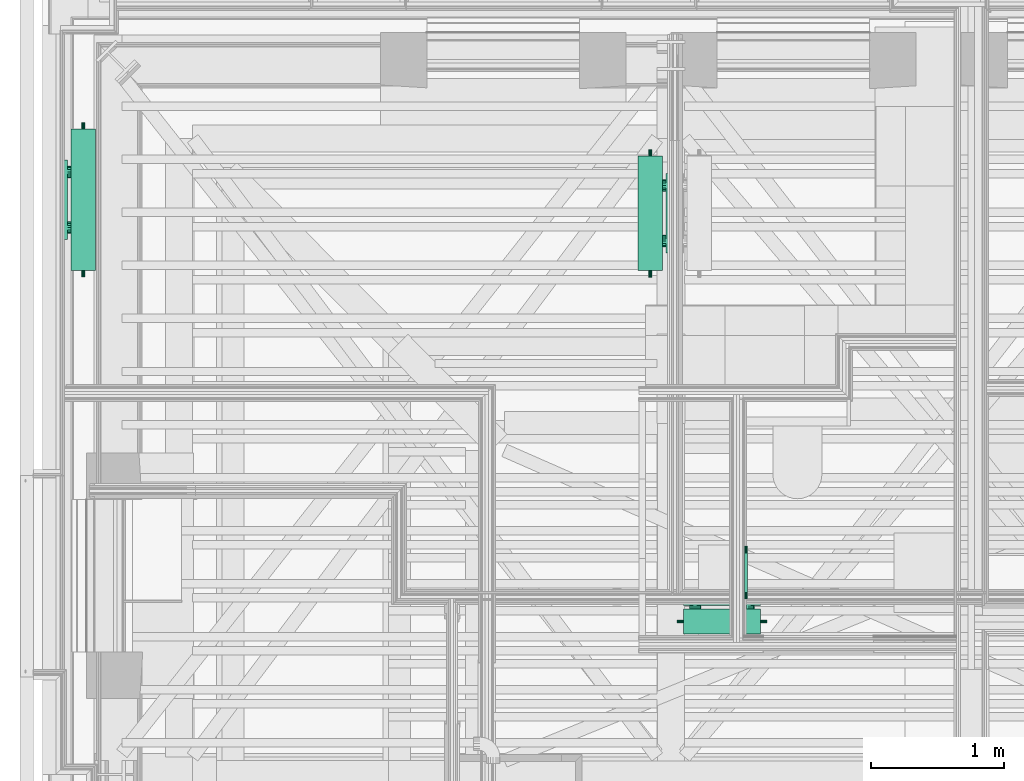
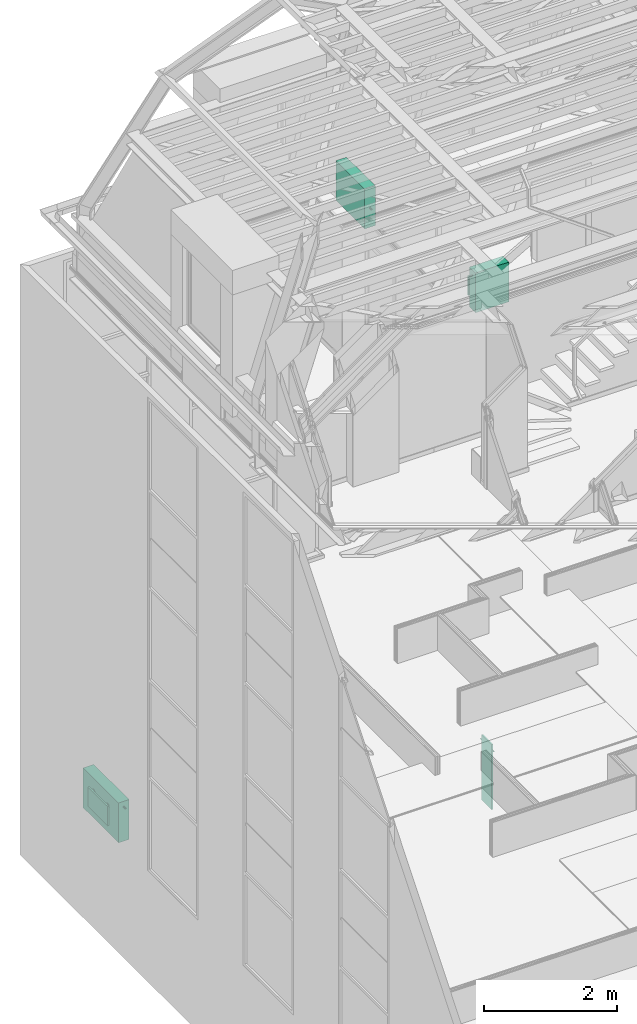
# One storey, part 162 of 183: 4 flow terminals.
"""IFC2X3 building model written with IfcOpenShell, lengths in metres."""

from ifc_helpers import new_model, entity, si_unit, converted_unit, derived_unit, money_unit, direction, frame, origin_with_axes, place, context, subcontext, project, spatial, open_shell, surface_model, material, type_object, element, save


model = new_model("IFC2X3")

# Units and contexts
model_context = context("Model", 3, precision=1e-05, world=origin_with_axes(), true_north=direction((0.0, 1.0)))
body_context = subcontext(model_context, "Body", "Model", "MODEL_VIEW", scale=1.0)
ifc_project = project(units=[si_unit("LENGTHUNIT", "METRE"), si_unit("AREAUNIT", "SQUARE_METRE"), si_unit("VOLUMEUNIT", "CUBIC_METRE"), si_unit("ABSORBEDDOSEUNIT", "GRAY"), si_unit("AMOUNTOFSUBSTANCEUNIT", "MOLE"), si_unit("DOSEEQUIVALENTUNIT", "SIEVERT"), si_unit("ELECTRICCAPACITANCEUNIT", "FARAD"), si_unit("ELECTRICCHARGEUNIT", "COULOMB"), si_unit("ELECTRICCONDUCTANCEUNIT", "SIEMENS"), si_unit("ELECTRICCURRENTUNIT", "AMPERE"), si_unit("ELECTRICRESISTANCEUNIT", "OHM"), si_unit("ELECTRICVOLTAGEUNIT", "VOLT"), si_unit("ENERGYUNIT", "JOULE"), si_unit("FORCEUNIT", "NEWTON"), si_unit("FREQUENCYUNIT", "HERTZ"), si_unit("ILLUMINANCEUNIT", "LUX"), si_unit("INDUCTANCEUNIT", "HENRY"), si_unit("LUMINOUSFLUXUNIT", "LUMEN"), si_unit("LUMINOUSINTENSITYUNIT", "CANDELA"), si_unit("MAGNETICFLUXDENSITYUNIT", "TESLA"), si_unit("MAGNETICFLUXUNIT", "WEBER"), si_unit("MASSUNIT", "GRAM"), converted_unit("PLANEANGLEUNIT", "degree", entity("IfcReal", 0.0174532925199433), si_unit("PLANEANGLEUNIT", "RADIAN"), dimensions=[0, 0, 0, 0, 0, 0, 0]), si_unit("POWERUNIT", "WATT"), si_unit("PRESSUREUNIT", "PASCAL"), si_unit("RADIOACTIVITYUNIT", "BECQUEREL"), si_unit("SOLIDANGLEUNIT", "STERADIAN"), si_unit("THERMODYNAMICTEMPERATUREUNIT", "KELVIN"), si_unit("TIMEUNIT", "SECOND"), derived_unit("ACCELERATIONUNIT", [(si_unit("LENGTHUNIT", "METRE"), 1), (si_unit("TIMEUNIT", "SECOND"), -2)]), derived_unit("ANGULARVELOCITYUNIT", [(converted_unit("PLANEANGLEUNIT", "degree", entity("IfcReal", 0.0174532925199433), si_unit("PLANEANGLEUNIT", "RADIAN"), dimensions=[0, 0, 0, 0, 0, 0, 0]), 1), (si_unit("TIMEUNIT", "SECOND"), -1)]), derived_unit("CURVATUREUNIT", [(converted_unit("PLANEANGLEUNIT", "degree", entity("IfcReal", 0.0174532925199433), si_unit("PLANEANGLEUNIT", "RADIAN"), dimensions=[0, 0, 0, 0, 0, 0, 0]), 1), (si_unit("LENGTHUNIT", "METRE"), -1)]), derived_unit("DYNAMICVISCOSITYUNIT", [(si_unit("PRESSUREUNIT", "PASCAL"), 1), (si_unit("TIMEUNIT", "SECOND"), 1)]), derived_unit("HEATFLUXDENSITYUNIT", [(si_unit("POWERUNIT", "WATT"), 1), (si_unit("LENGTHUNIT", "METRE"), -2)]), derived_unit("HEATINGVALUEUNIT", [(si_unit("ENERGYUNIT", "JOULE"), 1), (si_unit("MASSUNIT", "GRAM"), -1)]), derived_unit("INTEGERCOUNTRATEUNIT", [(si_unit("TIMEUNIT", "SECOND"), -1)]), derived_unit("IONCONCENTRATIONUNIT", [(si_unit("MASSUNIT", "GRAM"), 1), (si_unit("VOLUMEUNIT", "CUBIC_METRE"), -1)]), derived_unit("ISOTHERMALMOISTURECAPACITYUNIT", [(si_unit("VOLUMEUNIT", "CUBIC_METRE"), 1), (si_unit("MASSUNIT", "GRAM"), -1)]), derived_unit("KINEMATICVISCOSITYUNIT", [(si_unit("AREAUNIT", "SQUARE_METRE"), 1), (si_unit("TIMEUNIT", "SECOND"), -1)]), derived_unit("LINEARFORCEUNIT", [(si_unit("FORCEUNIT", "NEWTON"), 1), (si_unit("LENGTHUNIT", "METRE"), -1)]), derived_unit("LINEARMOMENTUNIT", [(si_unit("FORCEUNIT", "NEWTON"), 1), (si_unit("LENGTHUNIT", "METRE"), -1)]), derived_unit("LINEARSTIFFNESSUNIT", [(si_unit("FORCEUNIT", "NEWTON"), 1), (si_unit("LENGTHUNIT", "METRE"), -1)]), derived_unit("LINEARVELOCITYUNIT", [(si_unit("LENGTHUNIT", "METRE"), 1), (si_unit("TIMEUNIT", "SECOND"), -1)]), derived_unit("LUMINOUSINTENSITYDISTRIBUTIONUNIT", [(si_unit("LUMINOUSINTENSITYUNIT", "CANDELA"), 1), (si_unit("LUMINOUSFLUXUNIT", "LUMEN"), -1)]), derived_unit("MASSDENSITYUNIT", [(si_unit("MASSUNIT", "GRAM"), 1), (si_unit("VOLUMEUNIT", "CUBIC_METRE"), -1)]), derived_unit("MASSFLOWRATEUNIT", [(si_unit("MASSUNIT", "GRAM"), 1), (si_unit("TIMEUNIT", "SECOND"), -1)]), derived_unit("MASSPERLENGTHUNIT", [(si_unit("MASSUNIT", "GRAM"), 1), (si_unit("LENGTHUNIT", "METRE"), -1)]), derived_unit("MODULUSOFELASTICITYUNIT", [(si_unit("FORCEUNIT", "NEWTON"), 1), (si_unit("AREAUNIT", "SQUARE_METRE"), -1)]), derived_unit("MODULUSOFLINEARSUBGRADEREACTIONUNIT", [(si_unit("FORCEUNIT", "NEWTON"), 1), (si_unit("LENGTHUNIT", "METRE"), -2)]), derived_unit("MODULUSOFROTATIONALSUBGRADEREACTIONUNIT", [(si_unit("FORCEUNIT", "NEWTON"), 1), (si_unit("LENGTHUNIT", "METRE"), 1)]), derived_unit("MODULUSOFSUBGRADEREACTIONUNIT", [(si_unit("FORCEUNIT", "NEWTON"), 1), (si_unit("VOLUMEUNIT", "CUBIC_METRE"), -1)]), derived_unit("MOISTUREDIFFUSIVITYUNIT", [(si_unit("VOLUMEUNIT", "CUBIC_METRE"), 1), (si_unit("TIMEUNIT", "SECOND"), -1)]), derived_unit("MOLECULARWEIGHTUNIT", [(si_unit("MASSUNIT", "GRAM"), 1), (si_unit("AMOUNTOFSUBSTANCEUNIT", "MOLE"), -1)]), derived_unit("PLANARFORCEUNIT", [(si_unit("FORCEUNIT", "NEWTON"), 1), (si_unit("LENGTHUNIT", "METRE"), -2)]), derived_unit("ROTATIONALFREQUENCYUNIT", [(si_unit("TIMEUNIT", "SECOND"), -1)]), derived_unit("ROTATIONALMASSUNIT", [(si_unit("MASSUNIT", "GRAM"), 1), (si_unit("LENGTHUNIT", "METRE"), 2)]), derived_unit("ROTATIONALSTIFFNESSUNIT", [(si_unit("FORCEUNIT", "NEWTON"), 1), (si_unit("LENGTHUNIT", "METRE"), 1), (converted_unit("PLANEANGLEUNIT", "degree", entity("IfcReal", 0.0174532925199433), si_unit("PLANEANGLEUNIT", "RADIAN"), dimensions=[0, 0, 0, 0, 0, 0, 0]), -1)]), derived_unit("SECTIONAREAINTEGRALUNIT", [(si_unit("LENGTHUNIT", "METRE"), 5)]), derived_unit("SECTIONMODULUSUNIT", [(si_unit("LENGTHUNIT", "METRE"), 3)]), derived_unit("SHEARMODULUSUNIT", [(si_unit("FORCEUNIT", "NEWTON"), 1), (si_unit("AREAUNIT", "SQUARE_METRE"), -1)]), derived_unit("SOUNDPOWERUNIT", [(si_unit("ENERGYUNIT", "JOULE"), 1), (si_unit("TIMEUNIT", "SECOND"), -1)]), derived_unit("SPECIFICHEATCAPACITYUNIT", [(si_unit("FORCEUNIT", "NEWTON"), 1), (si_unit("MASSUNIT", "GRAM"), -1), (si_unit("THERMODYNAMICTEMPERATUREUNIT", "KELVIN"), -1)]), derived_unit("TEMPERATUREGRADIENTUNIT", [(si_unit("THERMODYNAMICTEMPERATUREUNIT", "KELVIN"), 1), (si_unit("LENGTHUNIT", "METRE"), -1)]), derived_unit("THERMALADMITTANCEUNIT", [(si_unit("POWERUNIT", "WATT"), 1), (si_unit("AREAUNIT", "SQUARE_METRE"), -1), (si_unit("THERMODYNAMICTEMPERATUREUNIT", "KELVIN"), -1)]), derived_unit("THERMALCONDUCTANCEUNIT", [(si_unit("POWERUNIT", "WATT"), 1), (si_unit("LENGTHUNIT", "METRE"), -1), (si_unit("THERMODYNAMICTEMPERATUREUNIT", "KELVIN"), -1)]), derived_unit("THERMALEXPANSIONCOEFFICIENTUNIT", [(si_unit("THERMODYNAMICTEMPERATUREUNIT", "KELVIN"), -1)]), derived_unit("THERMALRESISTANCEUNIT", [(si_unit("AREAUNIT", "SQUARE_METRE"), 1), (si_unit("POWERUNIT", "WATT"), -1)]), derived_unit("THERMALTRANSMITTANCEUNIT", [(si_unit("POWERUNIT", "WATT"), 1), (si_unit("AREAUNIT", "SQUARE_METRE"), -1), (si_unit("THERMODYNAMICTEMPERATUREUNIT", "KELVIN"), -1)]), derived_unit("TORQUEUNIT", [(si_unit("FORCEUNIT", "NEWTON"), 1), (si_unit("LENGTHUNIT", "METRE"), 1)]), derived_unit("VAPORPERMEABILITYUNIT", [(si_unit("MASSUNIT", "GRAM"), 1), (si_unit("TIMEUNIT", "SECOND"), -1)]), derived_unit("VOLUMETRICFLOWRATEUNIT", [(si_unit("VOLUMEUNIT", "CUBIC_METRE"), 1), (si_unit("TIMEUNIT", "SECOND"), -1)]), derived_unit("WARPINGCONSTANTUNIT", [(si_unit("LENGTHUNIT", "METRE"), 6)]), derived_unit("WARPINGMOMENTUNIT", [(si_unit("FORCEUNIT", "NEWTON"), 1), (si_unit("LENGTHUNIT", "METRE"), 2)]), money_unit("GBP")], contexts=[model_context])

# Site, building, storey, space
site_placement = place(None, origin_with_axes())
site = spatial("IfcSite", under=ifc_project, at=site_placement, Name="Site", CompositionType="ELEMENT")
building_placement = place(site_placement, origin_with_axes())
building = spatial("IfcBuilding", under=site, at=building_placement, Name="Building01", CompositionType="ELEMENT")
storey_placement = place(building_placement, frame((0.0, 0.0, 5.15), z_axis=(0.0, 0.0, 1.0), x_axis=(1.0, 0.0, 0.0)))
storey = spatial("IfcBuildingStorey", under=building, at=storey_placement, Name="1F", CompositionType="ELEMENT", Elevation=5.15)
space_1_placement = place(storey_placement, frame((0.318, 11.72567, 0.017975), z_axis=(0.0, 0.0, 1.0), x_axis=(1.0, 0.0, 0.0)))
space_1 = spatial("IfcSpace", under=storey, at=space_1_placement, Name="k/d/l", CompositionType="ELEMENT", InteriorOrExteriorSpace="NOTDEFINED")

# Flow terminal
ifc_material = material(Name="M_BSUK_Ventilation")
space_heater_type_1 = type_object("IfcSpaceHeaterType", Name="M-BmvRadiatorpanel-Panel", PredefinedType="NOTDEFINED")
flow_terminal_1_placement = place(storey_placement, frame((0.47825, 13.670846, 0.665), z_axis=(0.0, 0.0, 1.0), x_axis=(0.0, 1.0, 0.0)))
element("IfcFlowTerminal", 1, at=flow_terminal_1_placement, inside=space_1, type_object=space_heater_type_1, material=ifc_material, Name="M-BmvRadiatorpanel-Panel", ObjectType="M-BmvRadiatorpanel-Panel", context=body_context, shape_type="SurfaceModel", body=[
    surface_model("IfcShellBasedSurfaceModel", [(-1.069, -0.0925, 0.365), (-1.069, 0.0925, 0.365), (0.0, 0.0925, 0.365), (0.0, -0.0925, 0.365), (-1.069, -0.0925, -0.365), (-1.069, 0.0925, -0.365), (0.0, -0.0925, -0.365), (0.0, 0.0925, -0.365), (-0.2345, 0.12025, 0.175), (-0.8345, 0.12025, 0.175), (-0.8345, 0.14525, 0.175), (-0.2345, 0.14525, 0.175), (-0.8345, 0.14525, -0.175), (-0.2345, 0.14525, -0.175), (-0.8345, 0.12025, -0.175), (-0.2345, 0.12025, -0.175), (-0.3245, 0.0925, 0.0775), (-0.3245, 0.12025, 0.0775), (-0.307279, 0.12025, 0.080925), (-0.307279, 0.0925, 0.080925), (-0.29268, 0.12025, 0.09068), (-0.29268, 0.0925, 0.09068), (-0.282925, 0.12025, 0.105279), (-0.282925, 0.0925, 0.105279), (-0.2795, 0.12025, 0.1225), (-0.2795, 0.0925, 0.1225), (-0.282925, 0.12025, 0.139721), (-0.282925, 0.0925, 0.139721), (-0.29268, 0.12025, 0.15432), (-0.29268, 0.0925, 0.15432), (-0.307279, 0.12025, 0.164075), (-0.307279, 0.0925, 0.164075), (-0.3245, 0.12025, 0.1675), (-0.3245, 0.0925, 0.1675), (-0.341721, 0.12025, 0.164075), (-0.341721, 0.0925, 0.164075), (-0.35632, 0.12025, 0.15432), (-0.35632, 0.0925, 0.15432), (-0.366075, 0.12025, 0.139721), (-0.366075, 0.0925, 0.139721), (-0.3695, 0.12025, 0.1225), (-0.3695, 0.0925, 0.1225), (-0.366075, 0.12025, 0.105279), (-0.366075, 0.0925, 0.105279), (-0.35632, 0.12025, 0.09068), (-0.35632, 0.0925, 0.09068), (-0.341721, 0.12025, 0.080925), (-0.341721, 0.0925, 0.080925), (-0.7445, 0.0925, 0.0775), (-0.7445, 0.12025, 0.0775), (-0.727279, 0.12025, 0.080925), (-0.727279, 0.0925, 0.080925), (-0.71268, 0.12025, 0.09068), (-0.71268, 0.0925, 0.09068), (-0.702925, 0.12025, 0.105279), (-0.702925, 0.0925, 0.105279), (-0.6995, 0.12025, 0.1225), (-0.6995, 0.0925, 0.1225), (-0.702925, 0.12025, 0.139721), (-0.702925, 0.0925, 0.139721), (-0.71268, 0.12025, 0.15432), (-0.71268, 0.0925, 0.15432), (-0.727279, 0.12025, 0.164075), (-0.727279, 0.0925, 0.164075), (-0.7445, 0.12025, 0.1675), (-0.7445, 0.0925, 0.1675), (-0.761721, 0.12025, 0.164075), (-0.761721, 0.0925, 0.164075), (-0.77632, 0.12025, 0.15432), (-0.77632, 0.0925, 0.15432), (-0.786075, 0.12025, 0.139721), (-0.786075, 0.0925, 0.139721), (-0.7895, 0.12025, 0.1225), (-0.7895, 0.0925, 0.1225), (-0.786075, 0.12025, 0.105279), (-0.786075, 0.0925, 0.105279), (-0.77632, 0.12025, 0.09068), (-0.77632, 0.0925, 0.09068), (-0.761721, 0.12025, 0.080925), (-0.761721, 0.0925, 0.080925), (0.05, 0.0, -0.0225), (0.0, 0.0, -0.0225), (0.0, 0.004784, -0.021548), (0.05, 0.004784, -0.021548), (0.0, 0.008839, -0.018839), (0.05, 0.008839, -0.018839), (0.0, 0.011548, -0.014784), (0.05, 0.011548, -0.014784), (0.0, 0.0125, -0.01), (0.05, 0.0125, -0.01), (0.0, 0.011548, -0.005216), (0.05, 0.011548, -0.005216), (0.0, 0.008839, -0.001161), (0.05, 0.008839, -0.001161), (0.0, 0.004784, 0.001548), (0.05, 0.004784, 0.001548), (0.0, 0.0, 0.0025), (0.05, 0.0, 0.0025), (0.0, -0.004784, 0.001548), (0.05, -0.004784, 0.001548), (0.0, -0.008839, -0.001161), (0.05, -0.008839, -0.001161), (0.0, -0.011548, -0.005216), (0.05, -0.011548, -0.005216), (0.0, -0.0125, -0.01), (0.05, -0.0125, -0.01), (0.0, -0.011548, -0.014784), (0.05, -0.011548, -0.014784), (0.0, -0.008839, -0.018839), (0.05, -0.008839, -0.018839), (0.0, -0.004784, -0.021548), (0.05, -0.004784, -0.021548), (-1.119, 0.0, 0.2525), (-1.069, 0.0, 0.2525), (-1.069, -0.004784, 0.253452), (-1.119, -0.004784, 0.253452), (-1.069, -0.008839, 0.256161), (-1.119, -0.008839, 0.256161), (-1.069, -0.011548, 0.260216), (-1.119, -0.011548, 0.260216), (-1.069, -0.0125, 0.265), (-1.119, -0.0125, 0.265), (-1.069, -0.011548, 0.269784), (-1.119, -0.011548, 0.269784), (-1.069, -0.008839, 0.273839), (-1.119, -0.008839, 0.273839), (-1.069, -0.004784, 0.276548), (-1.119, -0.004784, 0.276548), (-1.069, 0.0, 0.2775), (-1.119, 0.0, 0.2775), (-1.069, 0.004784, 0.276548), (-1.119, 0.004784, 0.276548), (-1.069, 0.008839, 0.273839), (-1.119, 0.008839, 0.273839), (-1.069, 0.011548, 0.269784), (-1.119, 0.011548, 0.269784), (-1.069, 0.0125, 0.265), (-1.119, 0.0125, 0.265), (-1.069, 0.011548, 0.260216), (-1.119, 0.011548, 0.260216), (-1.069, 0.008839, 0.256161), (-1.119, 0.008839, 0.256161), (-1.069, 0.004784, 0.253452), (-1.119, 0.004784, 0.253452)], [open_shell([[[0, 1, 2, 3]], [[4, 5, 1, 0]], [[6, 7, 5, 4]], [[3, 2, 7, 6]], [[1, 5, 7, 2]], [[3, 6, 4, 0]], [[8, 9, 10, 11]], [[11, 10, 12, 13]], [[13, 12, 14, 15]], [[15, 14, 9, 8]], [[9, 14, 12, 10]], [[11, 13, 15, 8]], [[16, 17, 18, 19]], [[19, 18, 20, 21]], [[21, 20, 22, 23]], [[23, 22, 24, 25]], [[25, 24, 26, 27]], [[27, 26, 28, 29]], [[29, 28, 30, 31]], [[31, 30, 32, 33]], [[33, 32, 34, 35]], [[35, 34, 36, 37]], [[37, 36, 38, 39]], [[39, 38, 40, 41]], [[41, 40, 42, 43]], [[43, 42, 44, 45]], [[45, 44, 46, 47]], [[47, 46, 17, 16]], [[48, 49, 50, 51]], [[51, 50, 52, 53]], [[53, 52, 54, 55]], [[55, 54, 56, 57]], [[57, 56, 58, 59]], [[59, 58, 60, 61]], [[61, 60, 62, 63]], [[63, 62, 64, 65]], [[65, 64, 66, 67]], [[67, 66, 68, 69]], [[69, 68, 70, 71]], [[71, 70, 72, 73]], [[73, 72, 74, 75]], [[75, 74, 76, 77]], [[77, 76, 78, 79]], [[79, 78, 49, 48]], [[80, 81, 82, 83]], [[83, 82, 84, 85]], [[85, 84, 86, 87]], [[87, 86, 88, 89]], [[89, 88, 90, 91]], [[91, 90, 92, 93]], [[93, 92, 94, 95]], [[95, 94, 96, 97]], [[97, 96, 98, 99]], [[99, 98, 100, 101]], [[101, 100, 102, 103]], [[103, 102, 104, 105]], [[105, 104, 106, 107]], [[107, 106, 108, 109]], [[109, 108, 110, 111]], [[111, 110, 81, 80]], [[112, 113, 114, 115]], [[115, 114, 116, 117]], [[117, 116, 118, 119]], [[119, 118, 120, 121]], [[121, 120, 122, 123]], [[123, 122, 124, 125]], [[125, 124, 126, 127]], [[127, 126, 128, 129]], [[129, 128, 130, 131]], [[131, 130, 132, 133]], [[133, 132, 134, 135]], [[135, 134, 136, 137]], [[137, 136, 138, 139]], [[139, 138, 140, 141]], [[141, 140, 142, 143]], [[143, 142, 113, 112]]])]),
])

# Space
space_2_placement = place(storey_placement, frame((1.009939, 13.890379, 9.81), z_axis=(0.0, 0.0, 1.0), x_axis=(0.0, -1.0, 0.0)))
space_2 = spatial("IfcSpace", under=storey, at=space_2_placement, Name="26", CompositionType="ELEMENT", InteriorOrExteriorSpace="NOTDEFINED")

# Flow terminals
flow_terminal_2_placement = place(storey_placement, frame((4.754774, 12.601764, 10.445), z_axis=(0.0, 0.0, 1.0), x_axis=(0.0, -1.0, 0.0)))
element("IfcFlowTerminal", 2, at=flow_terminal_2_placement, inside=space_2, type_object=space_heater_type_1, material=ifc_material, Name="M-BmvRadiatorpanel-Panel", ObjectType="M-BmvRadiatorpanel-Panel", context=body_context, shape_type="SurfaceModel", body=[
    surface_model("IfcShellBasedSurfaceModel", [(-0.865, -0.0925, 0.365), (-0.865, 0.0925, 0.365), (0.0, 0.0925, 0.365), (0.0, -0.0925, 0.365), (-0.865, -0.0925, -0.365), (-0.865, 0.0925, -0.365), (0.0, -0.0925, -0.365), (0.0, 0.0925, -0.365), (-0.1325, 0.12025, 0.175), (-0.7325, 0.12025, 0.175), (-0.7325, 0.14525, 0.175), (-0.1325, 0.14525, 0.175), (-0.7325, 0.14525, -0.175), (-0.1325, 0.14525, -0.175), (-0.7325, 0.12025, -0.175), (-0.1325, 0.12025, -0.175), (-0.2225, 0.0925, 0.0775), (-0.2225, 0.12025, 0.0775), (-0.205279, 0.12025, 0.080925), (-0.205279, 0.0925, 0.080925), (-0.19068, 0.12025, 0.09068), (-0.19068, 0.0925, 0.09068), (-0.180925, 0.12025, 0.105279), (-0.180925, 0.0925, 0.105279), (-0.1775, 0.12025, 0.1225), (-0.1775, 0.0925, 0.1225), (-0.180925, 0.12025, 0.139721), (-0.180925, 0.0925, 0.139721), (-0.19068, 0.12025, 0.15432), (-0.19068, 0.0925, 0.15432), (-0.205279, 0.12025, 0.164075), (-0.205279, 0.0925, 0.164075), (-0.2225, 0.12025, 0.1675), (-0.2225, 0.0925, 0.1675), (-0.239721, 0.12025, 0.164075), (-0.239721, 0.0925, 0.164075), (-0.25432, 0.12025, 0.15432), (-0.25432, 0.0925, 0.15432), (-0.264075, 0.12025, 0.139721), (-0.264075, 0.0925, 0.139721), (-0.2675, 0.12025, 0.1225), (-0.2675, 0.0925, 0.1225), (-0.264075, 0.12025, 0.105279), (-0.264075, 0.0925, 0.105279), (-0.25432, 0.12025, 0.09068), (-0.25432, 0.0925, 0.09068), (-0.239721, 0.12025, 0.080925), (-0.239721, 0.0925, 0.080925), (-0.6425, 0.0925, 0.0775), (-0.6425, 0.12025, 0.0775), (-0.625279, 0.12025, 0.080925), (-0.625279, 0.0925, 0.080925), (-0.61068, 0.12025, 0.09068), (-0.61068, 0.0925, 0.09068), (-0.600925, 0.12025, 0.105279), (-0.600925, 0.0925, 0.105279), (-0.5975, 0.12025, 0.1225), (-0.5975, 0.0925, 0.1225), (-0.600925, 0.12025, 0.139721), (-0.600925, 0.0925, 0.139721), (-0.61068, 0.12025, 0.15432), (-0.61068, 0.0925, 0.15432), (-0.625279, 0.12025, 0.164075), (-0.625279, 0.0925, 0.164075), (-0.6425, 0.12025, 0.1675), (-0.6425, 0.0925, 0.1675), (-0.659721, 0.12025, 0.164075), (-0.659721, 0.0925, 0.164075), (-0.67432, 0.12025, 0.15432), (-0.67432, 0.0925, 0.15432), (-0.684075, 0.12025, 0.139721), (-0.684075, 0.0925, 0.139721), (-0.6875, 0.12025, 0.1225), (-0.6875, 0.0925, 0.1225), (-0.684075, 0.12025, 0.105279), (-0.684075, 0.0925, 0.105279), (-0.67432, 0.12025, 0.09068), (-0.67432, 0.0925, 0.09068), (-0.659721, 0.12025, 0.080925), (-0.659721, 0.0925, 0.080925), (0.05, 0.0, -0.0225), (0.0, 0.0, -0.0225), (0.0, 0.004784, -0.021548), (0.05, 0.004784, -0.021548), (0.0, 0.008839, -0.018839), (0.05, 0.008839, -0.018839), (0.0, 0.011548, -0.014784), (0.05, 0.011548, -0.014784), (0.0, 0.0125, -0.01), (0.05, 0.0125, -0.01), (0.0, 0.011548, -0.005216), (0.05, 0.011548, -0.005216), (0.0, 0.008839, -0.001161), (0.05, 0.008839, -0.001161), (0.0, 0.004784, 0.001548), (0.05, 0.004784, 0.001548), (0.0, 0.0, 0.0025), (0.05, 0.0, 0.0025), (0.0, -0.004784, 0.001548), (0.05, -0.004784, 0.001548), (0.0, -0.008839, -0.001161), (0.05, -0.008839, -0.001161), (0.0, -0.011548, -0.005216), (0.05, -0.011548, -0.005216), (0.0, -0.0125, -0.01), (0.05, -0.0125, -0.01), (0.0, -0.011548, -0.014784), (0.05, -0.011548, -0.014784), (0.0, -0.008839, -0.018839), (0.05, -0.008839, -0.018839), (0.0, -0.004784, -0.021548), (0.05, -0.004784, -0.021548), (-0.915, 0.0, 0.2525), (-0.865, 0.0, 0.2525), (-0.865, -0.004784, 0.253452), (-0.915, -0.004784, 0.253452), (-0.865, -0.008839, 0.256161), (-0.915, -0.008839, 0.256161), (-0.865, -0.011548, 0.260216), (-0.915, -0.011548, 0.260216), (-0.865, -0.0125, 0.265), (-0.915, -0.0125, 0.265), (-0.865, -0.011548, 0.269784), (-0.915, -0.011548, 0.269784), (-0.865, -0.008839, 0.273839), (-0.915, -0.008839, 0.273839), (-0.865, -0.004784, 0.276548), (-0.915, -0.004784, 0.276548), (-0.865, 0.0, 0.2775), (-0.915, 0.0, 0.2775), (-0.865, 0.004784, 0.276548), (-0.915, 0.004784, 0.276548), (-0.865, 0.008839, 0.273839), (-0.915, 0.008839, 0.273839), (-0.865, 0.011548, 0.269784), (-0.915, 0.011548, 0.269784), (-0.865, 0.0125, 0.265), (-0.915, 0.0125, 0.265), (-0.865, 0.011548, 0.260216), (-0.915, 0.011548, 0.260216), (-0.865, 0.008839, 0.256161), (-0.915, 0.008839, 0.256161), (-0.865, 0.004784, 0.253452), (-0.915, 0.004784, 0.253452)], [open_shell([[[0, 1, 2, 3]], [[4, 5, 1, 0]], [[6, 7, 5, 4]], [[3, 2, 7, 6]], [[1, 5, 7, 2]], [[3, 6, 4, 0]], [[8, 9, 10, 11]], [[11, 10, 12, 13]], [[13, 12, 14, 15]], [[15, 14, 9, 8]], [[9, 14, 12, 10]], [[11, 13, 15, 8]], [[16, 17, 18, 19]], [[19, 18, 20, 21]], [[21, 20, 22, 23]], [[23, 22, 24, 25]], [[25, 24, 26, 27]], [[27, 26, 28, 29]], [[29, 28, 30, 31]], [[31, 30, 32, 33]], [[33, 32, 34, 35]], [[35, 34, 36, 37]], [[37, 36, 38, 39]], [[39, 38, 40, 41]], [[41, 40, 42, 43]], [[43, 42, 44, 45]], [[45, 44, 46, 47]], [[47, 46, 17, 16]], [[48, 49, 50, 51]], [[51, 50, 52, 53]], [[53, 52, 54, 55]], [[55, 54, 56, 57]], [[57, 56, 58, 59]], [[59, 58, 60, 61]], [[61, 60, 62, 63]], [[63, 62, 64, 65]], [[65, 64, 66, 67]], [[67, 66, 68, 69]], [[69, 68, 70, 71]], [[71, 70, 72, 73]], [[73, 72, 74, 75]], [[75, 74, 76, 77]], [[77, 76, 78, 79]], [[79, 78, 49, 48]], [[80, 81, 82, 83]], [[83, 82, 84, 85]], [[85, 84, 86, 87]], [[87, 86, 88, 89]], [[89, 88, 90, 91]], [[91, 90, 92, 93]], [[93, 92, 94, 95]], [[95, 94, 96, 97]], [[97, 96, 98, 99]], [[99, 98, 100, 101]], [[101, 100, 102, 103]], [[103, 102, 104, 105]], [[105, 104, 106, 107]], [[107, 106, 108, 109]], [[109, 108, 110, 111]], [[111, 110, 81, 80]], [[112, 113, 114, 115]], [[115, 114, 116, 117]], [[117, 116, 118, 119]], [[119, 118, 120, 121]], [[121, 120, 122, 123]], [[123, 122, 124, 125]], [[125, 124, 126, 127]], [[127, 126, 128, 129]], [[129, 128, 130, 131]], [[131, 130, 132, 133]], [[133, 132, 134, 135]], [[135, 134, 136, 137]], [[137, 136, 138, 139]], [[139, 138, 140, 141]], [[141, 140, 142, 143]], [[143, 142, 113, 112]]])]),
])
flow_terminal_3_placement = place(storey_placement, frame((5.585459, 9.954689, 10.445), z_axis=(0.0, 0.0, 1.0), x_axis=(1.0, 0.0, 0.0)))
element("IfcFlowTerminal", 3, at=flow_terminal_3_placement, inside=space_2, type_object=space_heater_type_1, material=ifc_material, Name="M-BmvRadiatorpanel-Panel", ObjectType="M-BmvRadiatorpanel-Panel", context=body_context, shape_type="SurfaceModel", body=[
    surface_model("IfcShellBasedSurfaceModel", [(-0.58, -0.0925, 0.365), (-0.58, 0.0925, 0.365), (0.0, 0.0925, 0.365), (0.0, -0.0925, 0.365), (-0.58, -0.0925, -0.365), (-0.58, 0.0925, -0.365), (0.0, -0.0925, -0.365), (0.0, 0.0925, -0.365), (0.0, 0.12025, 0.175), (-0.58, 0.12025, 0.175), (-0.58, 0.14525, 0.175), (0.0, 0.14525, 0.175), (-0.58, 0.14525, -0.175), (0.0, 0.14525, -0.175), (-0.58, 0.12025, -0.175), (0.0, 0.12025, -0.175), (-0.087, 0.0925, 0.079), (-0.087, 0.12025, 0.079), (-0.070353, 0.12025, 0.082311), (-0.070353, 0.0925, 0.082311), (-0.056241, 0.12025, 0.091741), (-0.056241, 0.0925, 0.091741), (-0.046811, 0.12025, 0.105853), (-0.046811, 0.0925, 0.105853), (-0.0435, 0.12025, 0.1225), (-0.0435, 0.0925, 0.1225), (-0.046811, 0.12025, 0.139147), (-0.046811, 0.0925, 0.139147), (-0.056241, 0.12025, 0.153259), (-0.056241, 0.0925, 0.153259), (-0.070353, 0.12025, 0.162689), (-0.070353, 0.0925, 0.162689), (-0.087, 0.12025, 0.166), (-0.087, 0.0925, 0.166), (-0.103647, 0.12025, 0.162689), (-0.103647, 0.0925, 0.162689), (-0.117759, 0.12025, 0.153259), (-0.117759, 0.0925, 0.153259), (-0.127189, 0.12025, 0.139147), (-0.127189, 0.0925, 0.139147), (-0.1305, 0.12025, 0.1225), (-0.1305, 0.0925, 0.1225), (-0.127189, 0.12025, 0.105853), (-0.127189, 0.0925, 0.105853), (-0.117759, 0.12025, 0.091741), (-0.117759, 0.0925, 0.091741), (-0.103647, 0.12025, 0.082311), (-0.103647, 0.0925, 0.082311), (-0.493, 0.0925, 0.079), (-0.493, 0.12025, 0.079), (-0.476353, 0.12025, 0.082311), (-0.476353, 0.0925, 0.082311), (-0.462241, 0.12025, 0.091741), (-0.462241, 0.0925, 0.091741), (-0.452811, 0.12025, 0.105853), (-0.452811, 0.0925, 0.105853), (-0.4495, 0.12025, 0.1225), (-0.4495, 0.0925, 0.1225), (-0.452811, 0.12025, 0.139147), (-0.452811, 0.0925, 0.139147), (-0.462241, 0.12025, 0.153259), (-0.462241, 0.0925, 0.153259), (-0.476353, 0.12025, 0.162689), (-0.476353, 0.0925, 0.162689), (-0.493, 0.12025, 0.166), (-0.493, 0.0925, 0.166), (-0.509647, 0.12025, 0.162689), (-0.509647, 0.0925, 0.162689), (-0.523759, 0.12025, 0.153259), (-0.523759, 0.0925, 0.153259), (-0.533189, 0.12025, 0.139147), (-0.533189, 0.0925, 0.139147), (-0.5365, 0.12025, 0.1225), (-0.5365, 0.0925, 0.1225), (-0.533189, 0.12025, 0.105853), (-0.533189, 0.0925, 0.105853), (-0.523759, 0.12025, 0.091741), (-0.523759, 0.0925, 0.091741), (-0.509647, 0.12025, 0.082311), (-0.509647, 0.0925, 0.082311), (0.05, 0.0, -0.0225), (0.0, 0.0, -0.0225), (0.0, 0.004784, -0.021548), (0.05, 0.004784, -0.021548), (0.0, 0.008839, -0.018839), (0.05, 0.008839, -0.018839), (0.0, 0.011548, -0.014784), (0.05, 0.011548, -0.014784), (0.0, 0.0125, -0.01), (0.05, 0.0125, -0.01), (0.0, 0.011548, -0.005216), (0.05, 0.011548, -0.005216), (0.0, 0.008839, -0.001161), (0.05, 0.008839, -0.001161), (0.0, 0.004784, 0.001548), (0.05, 0.004784, 0.001548), (0.0, 0.0, 0.0025), (0.05, 0.0, 0.0025), (0.0, -0.004784, 0.001548), (0.05, -0.004784, 0.001548), (0.0, -0.008839, -0.001161), (0.05, -0.008839, -0.001161), (0.0, -0.011548, -0.005216), (0.05, -0.011548, -0.005216), (0.0, -0.0125, -0.01), (0.05, -0.0125, -0.01), (0.0, -0.011548, -0.014784), (0.05, -0.011548, -0.014784), (0.0, -0.008839, -0.018839), (0.05, -0.008839, -0.018839), (0.0, -0.004784, -0.021548), (0.05, -0.004784, -0.021548), (-0.63, 0.0, 0.2525), (-0.58, 0.0, 0.2525), (-0.58, -0.004784, 0.253452), (-0.63, -0.004784, 0.253452), (-0.58, -0.008839, 0.256161), (-0.63, -0.008839, 0.256161), (-0.58, -0.011548, 0.260216), (-0.63, -0.011548, 0.260216), (-0.58, -0.0125, 0.265), (-0.63, -0.0125, 0.265), (-0.58, -0.011548, 0.269784), (-0.63, -0.011548, 0.269784), (-0.58, -0.008839, 0.273839), (-0.63, -0.008839, 0.273839), (-0.58, -0.004784, 0.276548), (-0.63, -0.004784, 0.276548), (-0.58, 0.0, 0.2775), (-0.63, 0.0, 0.2775), (-0.58, 0.004784, 0.276548), (-0.63, 0.004784, 0.276548), (-0.58, 0.008839, 0.273839), (-0.63, 0.008839, 0.273839), (-0.58, 0.011548, 0.269784), (-0.63, 0.011548, 0.269784), (-0.58, 0.0125, 0.265), (-0.63, 0.0125, 0.265), (-0.58, 0.011548, 0.260216), (-0.63, 0.011548, 0.260216), (-0.58, 0.008839, 0.256161), (-0.63, 0.008839, 0.256161), (-0.58, 0.004784, 0.253452), (-0.63, 0.004784, 0.253452)], [open_shell([[[0, 1, 2, 3]], [[4, 5, 1, 0]], [[6, 7, 5, 4]], [[3, 2, 7, 6]], [[1, 5, 7, 2]], [[3, 6, 4, 0]], [[8, 9, 10, 11]], [[11, 10, 12, 13]], [[13, 12, 14, 15]], [[15, 14, 9, 8]], [[9, 14, 12, 10]], [[11, 13, 15, 8]], [[16, 17, 18, 19]], [[19, 18, 20, 21]], [[21, 20, 22, 23]], [[23, 22, 24, 25]], [[25, 24, 26, 27]], [[27, 26, 28, 29]], [[29, 28, 30, 31]], [[31, 30, 32, 33]], [[33, 32, 34, 35]], [[35, 34, 36, 37]], [[37, 36, 38, 39]], [[39, 38, 40, 41]], [[41, 40, 42, 43]], [[43, 42, 44, 45]], [[45, 44, 46, 47]], [[47, 46, 17, 16]], [[48, 49, 50, 51]], [[51, 50, 52, 53]], [[53, 52, 54, 55]], [[55, 54, 56, 57]], [[57, 56, 58, 59]], [[59, 58, 60, 61]], [[61, 60, 62, 63]], [[63, 62, 64, 65]], [[65, 64, 66, 67]], [[67, 66, 68, 69]], [[69, 68, 70, 71]], [[71, 70, 72, 73]], [[73, 72, 74, 75]], [[75, 74, 76, 77]], [[77, 76, 78, 79]], [[79, 78, 49, 48]], [[80, 81, 82, 83]], [[83, 82, 84, 85]], [[85, 84, 86, 87]], [[87, 86, 88, 89]], [[89, 88, 90, 91]], [[91, 90, 92, 93]], [[93, 92, 94, 95]], [[95, 94, 96, 97]], [[97, 96, 98, 99]], [[99, 98, 100, 101]], [[101, 100, 102, 103]], [[103, 102, 104, 105]], [[105, 104, 106, 107]], [[107, 106, 108, 109]], [[109, 108, 110, 111]], [[111, 110, 81, 80]], [[112, 113, 114, 115]], [[115, 114, 116, 117]], [[117, 116, 118, 119]], [[119, 118, 120, 121]], [[121, 120, 122, 123]], [[123, 122, 124, 125]], [[125, 124, 126, 127]], [[127, 126, 128, 129]], [[129, 128, 130, 131]], [[131, 130, 132, 133]], [[133, 132, 134, 135]], [[135, 134, 136, 137]], [[137, 136, 138, 139]], [[139, 138, 140, 141]], [[141, 140, 142, 143]], [[143, 142, 113, 112]]])]),
])

# Space
space_3_placement = place(storey_placement, frame((7.064669, 14.582, 0.017975), z_axis=(0.0, 0.0, 1.0), x_axis=(-1.0, 0.0, 0.0)))
space_3 = spatial("IfcSpace", under=storey, at=space_3_placement, Name="07", CompositionType="ELEMENT", InteriorOrExteriorSpace="NOTDEFINED")

# Flow terminal
space_heater_type_2 = type_object("IfcSpaceHeaterType", Name="M-BmvRadiator-Column", PredefinedType="NOTDEFINED")
flow_terminal_4_placement = place(storey_placement, frame((5.477169, 10.47326, 1.2), z_axis=(0.0, 0.0, 1.0), x_axis=(0.0, 1.0, 0.0)))
element("IfcFlowTerminal", 4, at=flow_terminal_4_placement, inside=space_3, type_object=space_heater_type_2, material=ifc_material, Name="M-BmvRadiator-Column", ObjectType="M-BmvRadiator-Column", context=body_context, shape_type="SurfaceModel", body=[
    surface_model("IfcShellBasedSurfaceModel", [(0.0, -0.0125, 0.6), (0.0, -0.0125, -0.6), (0.0, 0.0125, -0.6), (0.0, 0.0125, 0.6), (-0.3, -0.0125, 0.6), (-0.3, -0.0125, -0.6), (-0.3, 0.0125, -0.6), (-0.3, 0.0125, 0.6), (-0.06, 0.0125, 0.6), (-0.06, -0.0125, 0.6), (-0.06, -0.0125, -0.6), (-0.06, 0.0125, -0.6), (-0.12, 0.0125, 0.6), (-0.12, -0.0125, 0.6), (-0.12, -0.0125, -0.6), (-0.12, 0.0125, -0.6), (-0.18, 0.0125, 0.6), (-0.18, -0.0125, 0.6), (-0.18, -0.0125, -0.6), (-0.18, 0.0125, -0.6), (-0.24, 0.0125, 0.6), (-0.24, -0.0125, 0.6), (-0.24, -0.0125, -0.6), (-0.24, 0.0125, -0.6), (0.05, 0.0, 0.4825), (0.0, 0.0, 0.4825), (0.0, 0.003827, 0.483261), (0.05, 0.003827, 0.483261), (0.0, 0.007071, 0.485429), (0.05, 0.007071, 0.485429), (0.0, 0.009239, 0.488673), (0.05, 0.009239, 0.488673), (0.0, 0.01, 0.4925), (0.05, 0.01, 0.4925), (0.0, 0.009239, 0.496327), (0.05, 0.009239, 0.496327), (0.0, 0.007071, 0.499571), (0.05, 0.007071, 0.499571), (0.0, 0.003827, 0.501739), (0.05, 0.003827, 0.501739), (0.0, 0.0, 0.5025), (0.05, 0.0, 0.5025), (0.0, -0.003827, 0.501739), (0.05, -0.003827, 0.501739), (0.0, -0.007071, 0.499571), (0.05, -0.007071, 0.499571), (0.0, -0.009239, 0.496327), (0.05, -0.009239, 0.496327), (0.0, -0.01, 0.4925), (0.05, -0.01, 0.4925), (0.0, -0.009239, 0.488673), (0.05, -0.009239, 0.488673), (0.0, -0.007071, 0.485429), (0.05, -0.007071, 0.485429), (0.0, -0.003827, 0.483261), (0.05, -0.003827, 0.483261), (-0.35, 0.0, 0.4884), (-0.3, 0.0, 0.4884), (-0.3, -0.003827, 0.489161), (-0.35, -0.003827, 0.489161), (-0.3, -0.007071, 0.491329), (-0.35, -0.007071, 0.491329), (-0.3, -0.009239, 0.494573), (-0.35, -0.009239, 0.494573), (-0.3, -0.01, 0.4984), (-0.35, -0.01, 0.4984), (-0.3, -0.009239, 0.502227), (-0.35, -0.009239, 0.502227), (-0.3, -0.007071, 0.505471), (-0.35, -0.007071, 0.505471), (-0.3, -0.003827, 0.507639), (-0.35, -0.003827, 0.507639), (-0.3, 0.0, 0.5084), (-0.35, 0.0, 0.5084), (-0.3, 0.003827, 0.507639), (-0.35, 0.003827, 0.507639), (-0.3, 0.007071, 0.505471), (-0.35, 0.007071, 0.505471), (-0.3, 0.009239, 0.502227), (-0.35, 0.009239, 0.502227), (-0.3, 0.01, 0.4984), (-0.35, 0.01, 0.4984), (-0.3, 0.009239, 0.494573), (-0.35, 0.009239, 0.494573), (-0.3, 0.007071, 0.491329), (-0.35, 0.007071, 0.491329), (-0.3, 0.003827, 0.489161), (-0.35, 0.003827, 0.489161)], [open_shell([[[0, 1, 2, 3]], [[4, 5, 6, 7]], [[8, 3, 0, 9]], [[9, 0, 1, 10]], [[10, 1, 2, 11]], [[11, 2, 3, 8]], [[12, 8, 9, 13]], [[13, 9, 10, 14]], [[14, 10, 11, 15]], [[15, 11, 8, 12]], [[16, 12, 13, 17]], [[17, 13, 14, 18]], [[18, 14, 15, 19]], [[19, 15, 12, 16]], [[20, 16, 17, 21]], [[21, 17, 18, 22]], [[22, 18, 19, 23]], [[23, 19, 16, 20]], [[7, 20, 21, 4]], [[4, 21, 22, 5]], [[5, 22, 23, 6]], [[6, 23, 20, 7]], [[24, 25, 26, 27]], [[27, 26, 28, 29]], [[29, 28, 30, 31]], [[31, 30, 32, 33]], [[33, 32, 34, 35]], [[35, 34, 36, 37]], [[37, 36, 38, 39]], [[39, 38, 40, 41]], [[41, 40, 42, 43]], [[43, 42, 44, 45]], [[45, 44, 46, 47]], [[47, 46, 48, 49]], [[49, 48, 50, 51]], [[51, 50, 52, 53]], [[53, 52, 54, 55]], [[55, 54, 25, 24]], [[56, 57, 58, 59]], [[59, 58, 60, 61]], [[61, 60, 62, 63]], [[63, 62, 64, 65]], [[65, 64, 66, 67]], [[67, 66, 68, 69]], [[69, 68, 70, 71]], [[71, 70, 72, 73]], [[73, 72, 74, 75]], [[75, 74, 76, 77]], [[77, 76, 78, 79]], [[79, 78, 80, 81]], [[81, 80, 82, 83]], [[83, 82, 84, 85]], [[85, 84, 86, 87]], [[87, 86, 57, 56]]])]),
])

save(model, "model.ifc")
